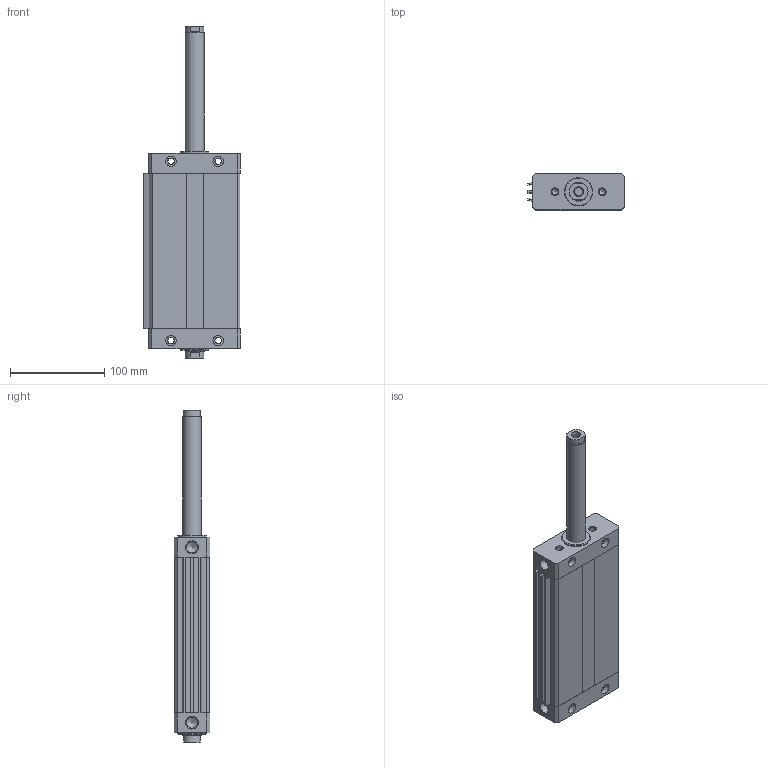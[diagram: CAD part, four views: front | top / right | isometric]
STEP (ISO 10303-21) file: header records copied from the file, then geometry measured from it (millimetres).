
FILE_DESCRIPTION((''),'2;1');
FILE_NAME('I:\Area Tecnica\Disegni\VARIE-3D\Componenti\1370 - CPO\1370_##_0000_03\1370_50_0125_03-01.iam.step','2010-12-16T10:58:46',(''),(''),'Autodesk Inventor 2011','Autodesk Inventor 2011','');
FILE_SCHEMA(('AUTOMOTIVE_DESIGN { 1 0 10303 214 1 1 1 1 }'));
Length unit declared in the file: millimetre
Products named in the file (5): 1370_50_0125_03-01; 1370_05_50_0000; 1370_06_50_0125; 1370_08_50_0000; 1370_3_50_0125
Assembly tree (4 placements, depth 2):
  1370_50_0125_03-01
    1370_05_50_0000
    1370_06_50_0125
    1370_08_50_0000
    1370_3_50_0125
Bounding box: 102.5 x 38 x 352 mm (x, y, z)
Volume: 562269.6 mm3; surface area: 153263.8 mm2
Topology: 4 solids, 4 shells, 164 faces, 398 edges, 252 vertices
Faces by surface type: plane 94, cylinder 50, cone 20
Full cylindrical faces by diameter (mm): 6.8 x18, 8.5 x2, 10.3 x2, 11 x8, 11.75 x2, 20 x4, 30 x2
Entity records: 4722 total; most frequent: DIRECTION 794, CARTESIAN_POINT 737, ORIENTED_EDGE 652, EDGE_CURVE 326, AXIS2_PLACEMENT_3D 295, EDGE_LOOP 254, VERTEX_POINT 238, VECTOR 204
